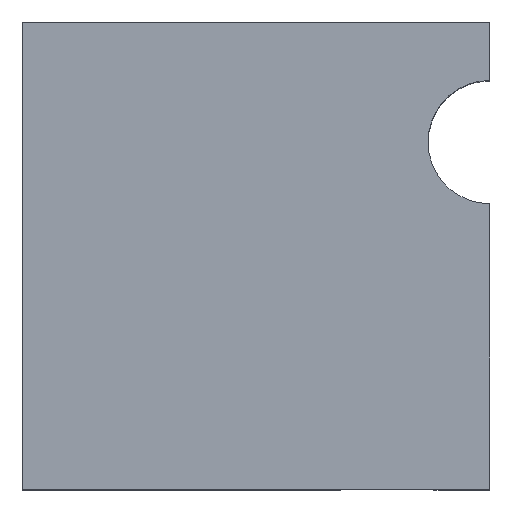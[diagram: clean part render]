
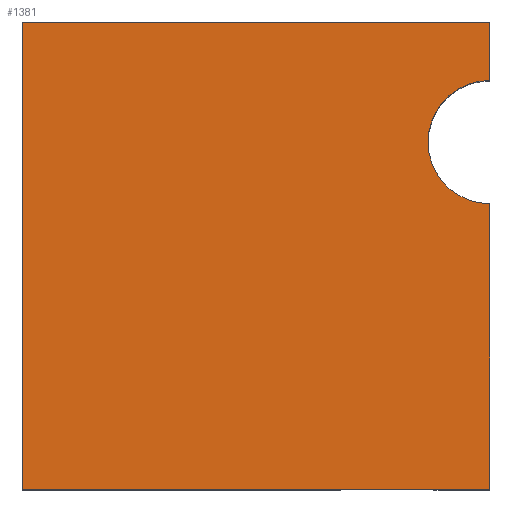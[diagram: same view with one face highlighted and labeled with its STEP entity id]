
A CAD part, top view. The second image highlights one B-rep face of the part: STEP entity #1381.
In plain terms, the highlighted planar face has unit normal (0, 0, 1).
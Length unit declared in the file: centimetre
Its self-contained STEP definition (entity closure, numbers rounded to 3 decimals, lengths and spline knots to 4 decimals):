
#70 = ORIENTED_EDGE ( 'NONE', *, *, #818, .T. ) ;
#102 = VECTOR ( 'NONE', #217, 100. ) ;
#105 = AXIS2_PLACEMENT_3D ( 'NONE', #428, #276, #960 ) ;
#162 = ORIENTED_EDGE ( 'NONE', *, *, #1092, .T. ) ;
#167 = CARTESIAN_POINT ( 'NONE',  ( 1000., 1000., 1000. ) ) ;
#176 = VERTEX_POINT ( 'NONE', #1313 ) ;
#181 = PLANE ( 'NONE',  #1394 ) ;
#200 = VERTEX_POINT ( 'NONE', #695 ) ;
#217 = DIRECTION ( 'NONE',  ( -1., 0., 0. ) ) ;
#236 = VECTOR ( 'NONE', #856, 100. ) ;
#262 = EDGE_CURVE ( 'NONE', #1243, #1634, #1532, .T. ) ;
#264 = VECTOR ( 'NONE', #274, 100. ) ;
#274 = DIRECTION ( 'NONE',  ( 0., 1., 0. ) ) ;
#276 = DIRECTION ( 'NONE',  ( 0., 0., 1. ) ) ;
#282 = LINE ( 'NONE', #518, #264 ) ;
#305 = EDGE_LOOP ( 'NONE', ( #1490, #1229, #162, #1466, #70, #1505 ) ) ;
#333 = VERTEX_POINT ( 'NONE', #765 ) ;
#415 = LINE ( 'NONE', #167, #1675 ) ;
#428 = CARTESIAN_POINT ( 'NONE',  ( 1000., 743.0621, 1000. ) ) ;
#446 = FACE_OUTER_BOUND ( 'NONE', #305, .T. ) ;
#518 = CARTESIAN_POINT ( 'NONE',  ( 1000., 1000., 1000. ) ) ;
#635 = EDGE_CURVE ( 'NONE', #1243, #200, #415, .T. ) ;
#695 = CARTESIAN_POINT ( 'NONE',  ( 1000., 1000., 1000. ) ) ;
#724 = DIRECTION ( 'NONE',  ( 1., 0., 0. ) ) ;
#761 = CARTESIAN_POINT ( 'NONE',  ( 1000., 611.2136, 1000. ) ) ;
#765 = CARTESIAN_POINT ( 'NONE',  ( 0., 0., 1000. ) ) ;
#793 = VECTOR ( 'NONE', #1446, 100. ) ;
#818 = EDGE_CURVE ( 'NONE', #333, #1097, #1246, .T. ) ;
#856 = DIRECTION ( 'NONE',  ( 1., 0., 0. ) ) ;
#888 = CARTESIAN_POINT ( 'NONE',  ( 1000., 0., 1000. ) ) ;
#896 = CARTESIAN_POINT ( 'NONE',  ( 0., 1000., 1000. ) ) ;
#932 = CARTESIAN_POINT ( 'NONE',  ( 1000., 874.9106, 1000. ) ) ;
#960 = DIRECTION ( 'NONE',  ( 1., 0., 0. ) ) ;
#1092 = EDGE_CURVE ( 'NONE', #200, #176, #1667, .T. ) ;
#1097 = VERTEX_POINT ( 'NONE', #888 ) ;
#1178 = EDGE_CURVE ( 'NONE', #1097, #1634, #282, .T. ) ;
#1229 = ORIENTED_EDGE ( 'NONE', *, *, #635, .T. ) ;
#1243 = VERTEX_POINT ( 'NONE', #932 ) ;
#1246 = LINE ( 'NONE', #1523, #236 ) ;
#1313 = CARTESIAN_POINT ( 'NONE',  ( 0., 1000., 1000. ) ) ;
#1355 = DIRECTION ( 'NONE',  ( 0., 0., 1. ) ) ;
#1381 = ADVANCED_FACE ( 'NONE', ( #446 ), #181, .T. ) ;
#1394 = AXIS2_PLACEMENT_3D ( 'NONE', #1648, #1355, #724 ) ;
#1446 = DIRECTION ( 'NONE',  ( 0., -1., 0. ) ) ;
#1466 = ORIENTED_EDGE ( 'NONE', *, *, #1613, .T. ) ;
#1469 = DIRECTION ( 'NONE',  ( 0., 1., 0. ) ) ;
#1490 = ORIENTED_EDGE ( 'NONE', *, *, #262, .F. ) ;
#1505 = ORIENTED_EDGE ( 'NONE', *, *, #1178, .T. ) ;
#1523 = CARTESIAN_POINT ( 'NONE',  ( 0., 0., 1000. ) ) ;
#1532 = CIRCLE ( 'NONE', #105, 131.8485 ) ;
#1543 = CARTESIAN_POINT ( 'NONE',  ( 0., 1000., 1000. ) ) ;
#1574 = LINE ( 'NONE', #1543, #793 ) ;
#1613 = EDGE_CURVE ( 'NONE', #176, #333, #1574, .T. ) ;
#1634 = VERTEX_POINT ( 'NONE', #761 ) ;
#1648 = CARTESIAN_POINT ( 'NONE',  ( 0., 0., 1000. ) ) ;
#1667 = LINE ( 'NONE', #896, #102 ) ;
#1675 = VECTOR ( 'NONE', #1469, 100. ) ;
